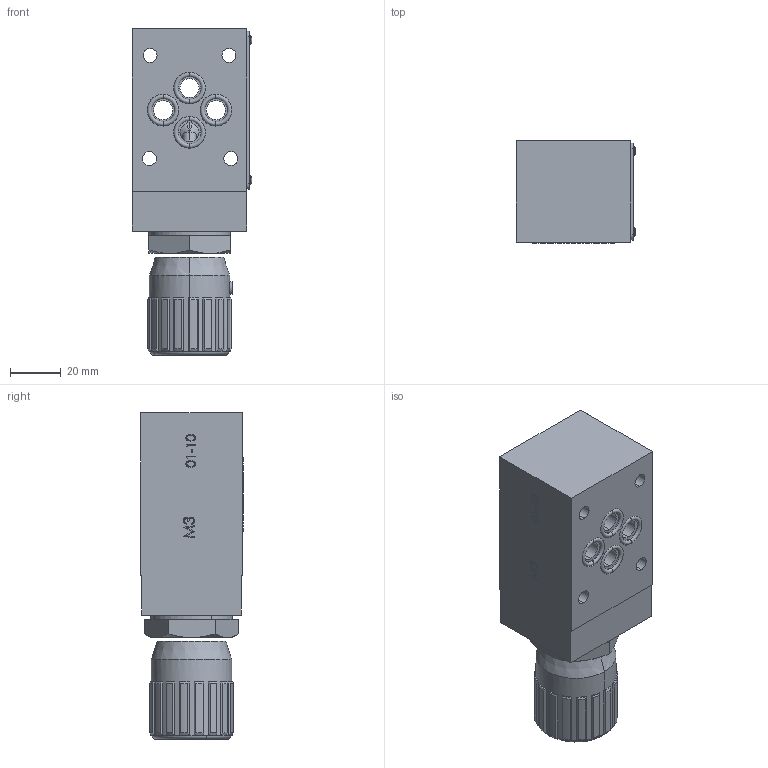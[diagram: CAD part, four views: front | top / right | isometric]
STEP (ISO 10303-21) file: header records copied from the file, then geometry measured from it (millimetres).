
FILE_DESCRIPTION (( 'STEP AP214' ), '1' );
FILE_NAME ('357-5-B-03-H.STEP', '2015-05-18T07:59:05', ( '' ), ( '' ), 'SwSTEP 2.0', 'SolidWorks 2014', '' );
FILE_SCHEMA (( 'AUTOMOTIVE_DESIGN' ));
Length unit declared in the file: millimetre
Products named in the file (1): 357-5-B-03-H
Bounding box: 46.96 x 40.38 x 128.3 mm (x, y, z)
Surface area: 32248.8 mm2 (no closed solid volume)
Topology: 0 solids, 38 shells, 857 faces, 3958 edges, 3017 vertices
Faces by surface type: plane 494, bspline 171, cylinder 113, cone 53, torus 26
Entity records: 64732 total; most frequent: CARTESIAN_POINT 26179, ORIENTED_EDGE 5610, DIRECTION 4895, EDGE_CURVE 3956, VERTEX_POINT 3017, VECTOR 2681, LINE 2681, AXIS2_PLACEMENT_3D 1107
